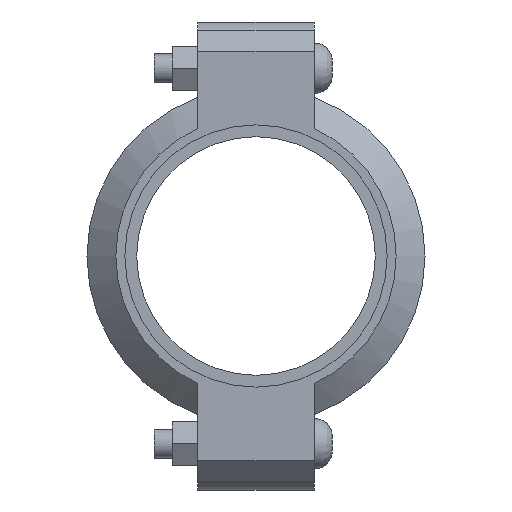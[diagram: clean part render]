
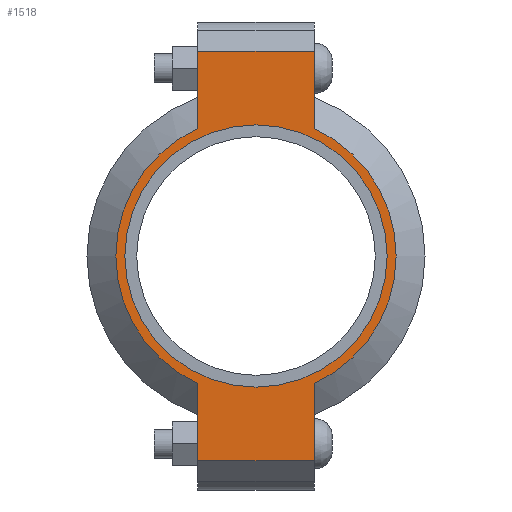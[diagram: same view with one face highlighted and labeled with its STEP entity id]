
A CAD part, left-side view. The second image highlights one B-rep face of the part: STEP entity #1518.
In plain terms, the highlighted planar face has unit normal (-1, 0, 0) as drawn and (0, 0, 1) by its records, which use the part's own axes.
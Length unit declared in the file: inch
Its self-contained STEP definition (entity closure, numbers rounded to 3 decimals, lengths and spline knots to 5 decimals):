
#142=LINE('',#2649,#235);
#150=LINE('',#2685,#243);
#157=LINE('',#2706,#250);
#166=LINE('',#2738,#259);
#167=LINE('',#2742,#260);
#168=LINE('',#2744,#261);
#235=VECTOR('',#2165,0.3937);
#243=VECTOR('',#2181,0.3937);
#250=VECTOR('',#2200,0.3937);
#259=VECTOR('',#2225,0.3937);
#260=VECTOR('',#2230,0.3937);
#261=VECTOR('',#2231,0.3937);
#317=FACE_BOUND('',#495,.T.);
#389=FACE_OUTER_BOUND('',#494,.T.);
#494=EDGE_LOOP('',(#1259,#1260,#1261,#1262,#1263,#1264,#1265,#1266));
#495=EDGE_LOOP('',(#1267));
#567=CIRCLE('',#1737,2.25);
#593=CIRCLE('',#1796,2.405);
#594=CIRCLE('',#1797,2.405);
#659=VERTEX_POINT('',#2465);
#702=VERTEX_POINT('',#2646);
#703=VERTEX_POINT('',#2648);
#714=VERTEX_POINT('',#2680);
#715=VERTEX_POINT('',#2684);
#722=VERTEX_POINT('',#2703);
#723=VERTEX_POINT('',#2705);
#733=VERTEX_POINT('',#2741);
#734=VERTEX_POINT('',#2743);
#815=EDGE_CURVE('',#659,#659,#567,.T.);
#876=EDGE_CURVE('',#703,#702,#142,.T.);
#890=EDGE_CURVE('',#715,#714,#150,.T.);
#900=EDGE_CURVE('',#723,#722,#157,.T.);
#915=EDGE_CURVE('',#715,#702,#166,.T.);
#916=EDGE_CURVE('',#714,#723,#593,.T.);
#917=EDGE_CURVE('',#733,#722,#167,.T.);
#918=EDGE_CURVE('',#733,#734,#168,.T.);
#919=EDGE_CURVE('',#734,#703,#594,.T.);
#1259=ORIENTED_EDGE('',*,*,#915,.F.);
#1260=ORIENTED_EDGE('',*,*,#890,.T.);
#1261=ORIENTED_EDGE('',*,*,#916,.T.);
#1262=ORIENTED_EDGE('',*,*,#900,.T.);
#1263=ORIENTED_EDGE('',*,*,#917,.F.);
#1264=ORIENTED_EDGE('',*,*,#918,.T.);
#1265=ORIENTED_EDGE('',*,*,#919,.T.);
#1266=ORIENTED_EDGE('',*,*,#876,.T.);
#1267=ORIENTED_EDGE('',*,*,#815,.T.);
#1360=PLANE('',#1795);
#1518=ADVANCED_FACE('',(#389,#317),#1360,.T.);
#1737=AXIS2_PLACEMENT_3D('',#2467,#2041,#2042);
#1795=AXIS2_PLACEMENT_3D('',#2739,#2226,#2227);
#1796=AXIS2_PLACEMENT_3D('',#2740,#2228,#2229);
#1797=AXIS2_PLACEMENT_3D('',#2745,#2232,#2233);
#2041=DIRECTION('center_axis',(0.,0.,-1.));
#2042=DIRECTION('ref_axis',(-1.,0.,0.));
#2165=DIRECTION('',(-1.,0.,0.));
#2181=DIRECTION('',(1.,0.,0.));
#2200=DIRECTION('',(1.,0.,0.));
#2225=DIRECTION('',(0.,1.,0.));
#2226=DIRECTION('center_axis',(0.,0.,1.));
#2227=DIRECTION('ref_axis',(1.,0.,0.));
#2228=DIRECTION('center_axis',(0.,0.,1.));
#2229=DIRECTION('ref_axis',(-1.,0.,0.));
#2230=DIRECTION('',(0.,-1.,0.));
#2231=DIRECTION('',(-1.,0.,0.));
#2232=DIRECTION('center_axis',(0.,0.,1.));
#2233=DIRECTION('ref_axis',(-1.,0.,0.));
#2465=CARTESIAN_POINT('',(2.25,0.,1.065));
#2467=CARTESIAN_POINT('Origin',(0.,0.,1.065));
#2646=CARTESIAN_POINT('',(-3.515,1.,1.065));
#2648=CARTESIAN_POINT('',(-2.18724,1.,1.065));
#2649=CARTESIAN_POINT('',(-4.015,1.,1.065));
#2680=CARTESIAN_POINT('',(-2.18724,-1.,1.065));
#2684=CARTESIAN_POINT('',(-3.515,-1.,1.065));
#2685=CARTESIAN_POINT('',(4.015,-1.,1.065));
#2703=CARTESIAN_POINT('',(3.515,-1.,1.065));
#2705=CARTESIAN_POINT('',(2.18724,-1.,1.065));
#2706=CARTESIAN_POINT('',(4.015,-1.,1.065));
#2738=CARTESIAN_POINT('',(-3.515,0.5,1.065));
#2739=CARTESIAN_POINT('Origin',(0.,0.,1.065));
#2740=CARTESIAN_POINT('Origin',(0.,0.,1.065));
#2741=CARTESIAN_POINT('',(3.515,1.,1.065));
#2742=CARTESIAN_POINT('',(3.515,-0.5,1.065));
#2743=CARTESIAN_POINT('',(2.18724,1.,1.065));
#2744=CARTESIAN_POINT('',(-4.015,1.,1.065));
#2745=CARTESIAN_POINT('Origin',(0.,0.,1.065));
